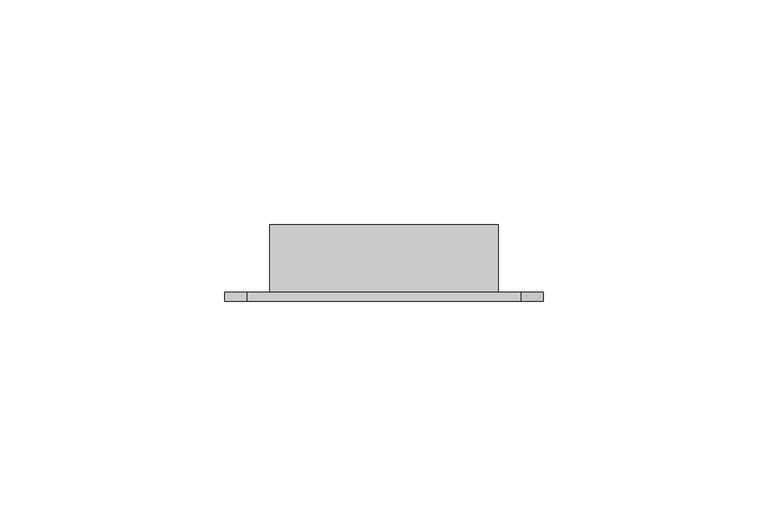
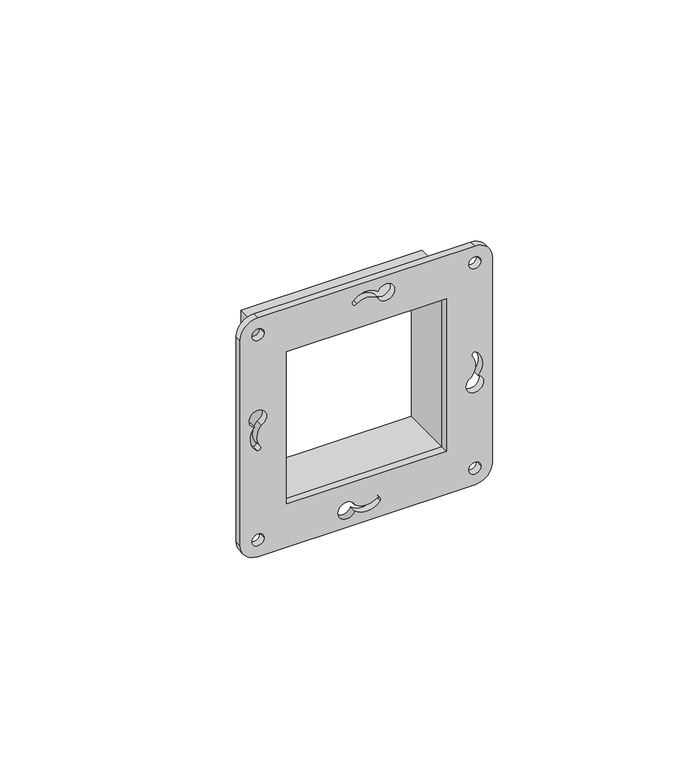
"""IFC4 building model written with IfcOpenShell, lengths in millimetres: proxy geometry, КНС_КаркасНа2Модуля(одноместный)БезЛапок_DKC : 2 модуля."""

from ifc_helpers import new_model, si_unit, point, frame, frame_2d, origin, place, context, project, spatial, polyline, circle_curve, trimmed, segment, composite_curve, outline, extrude, source, transform, mapped, element, save


def electrical_fixtures_2476e472(model_context):
    return source(origin(), model_context, "Body", "SweptSolid", [
        extrude(outline(composite_curve([segment(polyline([(35.45, 30.45), (35.45, -30.45)]), True, "CONTINUOUS"), segment(trimmed(circle_curve(frame_2d((30.45, -30.45)), 5.0), [point((35.45, -30.45))], [point((30.45, -35.45))], False, "CARTESIAN"), True, "CONTINUOUS"), segment(polyline([(30.45, -35.45), (-30.45, -35.45)]), True, "CONTINUOUS"), segment(trimmed(circle_curve(frame_2d((-30.45, -30.45)), 5.0), [point((-30.45, -35.45))], [point((-35.45, -30.45))], False, "CARTESIAN"), True, "CONTINUOUS"), segment(polyline([(-35.45, -30.45), (-35.45, 30.45)]), True, "CONTINUOUS"), segment(trimmed(circle_curve(frame_2d((-30.45, 30.45)), 5.0), [point((-35.45, 30.45))], [point((-30.45, 35.45))], False, "CARTESIAN"), True, "CONTINUOUS"), segment(polyline([(-30.45, 35.45), (30.45, 35.45)]), True, "CONTINUOUS"), segment(trimmed(circle_curve(frame_2d((30.45, 30.45)), 5.0), [point((30.45, 35.45))], [point((35.45, 30.45))], False, "CARTESIAN"), True, "CONTINUOUS")], self_intersect=False), holes=[polyline([(22.6231857, 22.45), (-22.6231857, 22.45), (-22.6231857, -22.45), (22.6231857, -22.45), (22.6231857, 22.45)]), composite_curve([segment(trimmed(circle_curve(frame_2d((27.6263139, 0.0)), 5.0), [point((30.9017143, -3.7777973))], [point((31.4041112, 3.2754004))], True, "CARTESIAN"), True, "CONTINUOUS"), segment(trimmed(circle_curve(frame_2d((30.4923961, 5.5373597)), 2.4387876), [point((31.4041112, 3.2754004))], [point((29.5806809, 3.2754004))], True, "CARTESIAN"), True, "CONTINUOUS"), segment(trimmed(circle_curve(frame_2d((25.8028836, 0.0)), 5.0), [point((29.5806809, 3.2754004))], [point((29.9366866, -2.8127696))], False, "CARTESIAN"), True, "CONTINUOUS"), segment(trimmed(circle_curve(frame_2d((30.4535697, -3.2609142)), 0.6841065), [point((29.9366866, -2.8127696))], [point((30.9017143, -3.7777973))], True, "CARTESIAN"), True, "CONTINUOUS")], self_intersect=False), composite_curve([segment(trimmed(circle_curve(frame_2d((-27.6263139, 0.0)), 5.0), [point((-30.9017143, 3.7777973))], [point((-31.4041112, -3.2754004))], True, "CARTESIAN"), True, "CONTINUOUS"), segment(trimmed(circle_curve(frame_2d((-30.4923961, -5.5373597)), 2.4387876), [point((-31.4041112, -3.2754004))], [point((-29.5806809, -3.2754004))], True, "CARTESIAN"), True, "CONTINUOUS"), segment(trimmed(circle_curve(frame_2d((-25.8028836, 0.0)), 5.0), [point((-29.5806809, -3.2754004))], [point((-29.9366866, 2.8127696))], False, "CARTESIAN"), True, "CONTINUOUS"), segment(trimmed(circle_curve(frame_2d((-30.4535697, 3.2609142)), 0.6841065), [point((-29.9366866, 2.8127696))], [point((-30.9017143, 3.7777973))], True, "CARTESIAN"), True, "CONTINUOUS")], self_intersect=False), composite_curve([segment(trimmed(circle_curve(frame_2d((0.0, 27.6263139)), 5.0), [point((3.7777973, 30.9017143))], [point((-3.2754004, 31.4041112))], True, "CARTESIAN"), True, "CONTINUOUS"), segment(trimmed(circle_curve(frame_2d((-5.5373597, 30.4923961)), 2.4387876), [point((-3.2754004, 31.4041112))], [point((-3.2754004, 29.5806809))], True, "CARTESIAN"), True, "CONTINUOUS"), segment(trimmed(circle_curve(frame_2d((0.0, 25.8028836)), 5.0), [point((-3.2754004, 29.5806809))], [point((2.8127696, 29.9366866))], False, "CARTESIAN"), True, "CONTINUOUS"), segment(trimmed(circle_curve(frame_2d((3.2609142, 30.4535697)), 0.6841065), [point((2.8127696, 29.9366866))], [point((3.7777973, 30.9017143))], True, "CARTESIAN"), True, "CONTINUOUS")], self_intersect=False), composite_curve([segment(trimmed(circle_curve(frame_2d((0.0, -27.6263139)), 5.0), [point((-3.7777973, -30.9017143))], [point((3.2754004, -31.4041112))], True, "CARTESIAN"), True, "CONTINUOUS"), segment(trimmed(circle_curve(frame_2d((5.5373597, -30.4923961)), 2.4387876), [point((3.2754004, -31.4041112))], [point((3.2754004, -29.5806809))], True, "CARTESIAN"), True, "CONTINUOUS"), segment(trimmed(circle_curve(frame_2d((0.0, -25.8028836)), 5.0), [point((3.2754004, -29.5806809))], [point((-2.8127696, -29.9366866))], False, "CARTESIAN"), True, "CONTINUOUS"), segment(trimmed(circle_curve(frame_2d((-3.2609142, -30.4535697)), 0.6841065), [point((-2.8127696, -29.9366866))], [point((-3.7777973, -30.9017143))], True, "CARTESIAN"), True, "CONTINUOUS")], self_intersect=False), composite_curve([segment(trimmed(circle_curve(frame_2d((30.4923961, -30.4923961)), 1.707129), [point((30.4923961, -28.785267))], [point((30.4923961, -32.1995251))], True, "CARTESIAN"), True, "CONTINUOUS"), segment(trimmed(circle_curve(frame_2d((30.4923961, -30.4923961)), 1.707129), [point((30.4923961, -32.1995251))], [point((30.4923961, -28.785267))], True, "CARTESIAN"), True, "CONTINUOUS")], self_intersect=False), composite_curve([segment(trimmed(circle_curve(frame_2d((-30.4923961, -30.4923961)), 1.707129), [point((-30.4923961, -28.785267))], [point((-30.4923961, -32.1995251))], True, "CARTESIAN"), True, "CONTINUOUS"), segment(trimmed(circle_curve(frame_2d((-30.4923961, -30.4923961)), 1.707129), [point((-30.4923961, -32.1995251))], [point((-30.4923961, -28.785267))], True, "CARTESIAN"), True, "CONTINUOUS")], self_intersect=False), composite_curve([segment(trimmed(circle_curve(frame_2d((30.4923961, 30.4923961)), 1.707129), [point((30.4923961, 32.1995251))], [point((30.4923961, 28.785267))], True, "CARTESIAN"), True, "CONTINUOUS"), segment(trimmed(circle_curve(frame_2d((30.4923961, 30.4923961)), 1.707129), [point((30.4923961, 28.785267))], [point((30.4923961, 32.1995251))], True, "CARTESIAN"), True, "CONTINUOUS")], self_intersect=False), composite_curve([segment(trimmed(circle_curve(frame_2d((-30.4923961, 30.4923961)), 1.707129), [point((-30.4923961, 32.1995251))], [point((-30.4923961, 28.785267))], True, "CARTESIAN"), True, "CONTINUOUS"), segment(trimmed(circle_curve(frame_2d((-30.4923961, 30.4923961)), 1.707129), [point((-30.4923961, 28.785267))], [point((-30.4923961, 32.1995251))], True, "CARTESIAN"), True, "CONTINUOUS")], self_intersect=False)]), frame((0.0, -2.0, 0.0), z_axis=(0.0, 1.0, 0.0), x_axis=(0.0, 0.0, 1.0)), (0.0, 0.0, 1.0), 2.0),
        extrude(outline(polyline([(25.6231857, 25.45), (25.6231857, -25.45), (-25.6231857, -25.45), (-25.6231857, 25.45), (25.6231857, 25.45)]), holes=[polyline([(22.6231857, 22.45), (-22.6231857, 22.45), (-22.6231857, -22.45), (22.6231857, -22.45), (22.6231857, 22.45)])]), frame((0.0, 0.0, 0.0), z_axis=(0.0, 1.0, 0.0), x_axis=(0.0, 0.0, 1.0)), (0.0, 0.0, 1.0), 15.0),
    ])


if __name__ == "__main__":
    model = new_model("IFC4")
    model_context = context("Model", 3, world=origin())
    ifc_project = project(units=[si_unit("LENGTHUNIT", "METRE", prefix="MILLI")], contexts=[model_context])
    site = spatial("IfcSite", under=ifc_project)
    building = spatial("IfcBuilding", under=site)
    placement = place(None, origin())
    electrical_fixtures_shape = electrical_fixtures_2476e472(model_context)
    element("IfcBuildingElementProxy", 1, Name="КНС_КаркасНа2Модуля(одноместный)БезЛапок_DKC : 2 модуля", ObjectType="КНС_КаркасНа2Модуля(одноместный)БезЛапок_DKC : 2 модуля", at=placement, inside=building, context=model_context, shape_type="MappedRepresentation", body=[
        mapped(electrical_fixtures_shape, transform((0.0, 0.0, 0.0), x_axis=(1.0, 0.0, 0.0), y_axis=(0.0, 1.0, 0.0), z_axis=(0.0, 0.0, 1.0))),
    ])
    save(model, "model.ifc")
